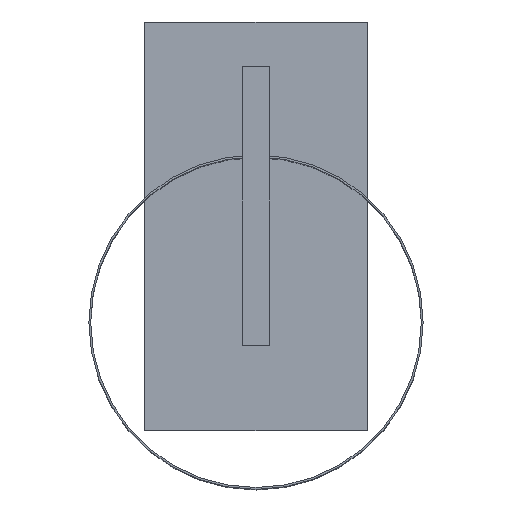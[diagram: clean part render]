
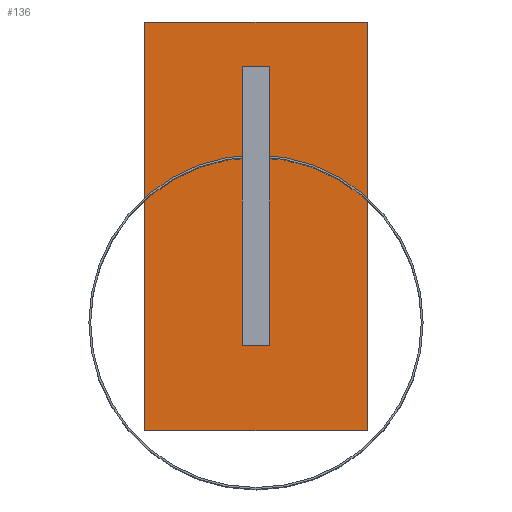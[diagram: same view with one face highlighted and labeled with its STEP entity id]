
A CAD part, top view. The second image highlights one B-rep face of the part: STEP entity #136.
In plain terms, the highlighted planar face has unit normal (0, 0, 1).
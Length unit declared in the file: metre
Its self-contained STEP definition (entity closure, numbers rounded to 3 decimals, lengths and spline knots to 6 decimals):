
#136 = ADVANCED_FACE( '', ( #173, #174 ), #175, .T. );
#173 = FACE_BOUND( '', #216, .T. );
#174 = FACE_OUTER_BOUND( '', #217, .T. );
#175 = PLANE( '', #218 );
#216 = EDGE_LOOP( '', ( #316, #317, #318, #319 ) );
#217 = EDGE_LOOP( '', ( #320, #321, #322, #323 ) );
#218 = AXIS2_PLACEMENT_3D( '', #324, #325, #326 );
#316 = ORIENTED_EDGE( '', *, *, #398, .F. );
#317 = ORIENTED_EDGE( '', *, *, #399, .F. );
#318 = ORIENTED_EDGE( '', *, *, #379, .F. );
#319 = ORIENTED_EDGE( '', *, *, #373, .F. );
#320 = ORIENTED_EDGE( '', *, *, #376, .T. );
#321 = ORIENTED_EDGE( '', *, *, #392, .T. );
#322 = ORIENTED_EDGE( '', *, *, #396, .T. );
#323 = ORIENTED_EDGE( '', *, *, #397, .T. );
#324 = CARTESIAN_POINT( '', ( -0.06, -0.11, 0.006 ) );
#325 = DIRECTION( '', ( 0., 0., 1. ) );
#326 = DIRECTION( '', ( 1., 0., 0. ) );
#373 = EDGE_CURVE( '', #419, #415, #421, .T. );
#376 = EDGE_CURVE( '', #427, #425, #428, .T. );
#379 = EDGE_CURVE( '', #415, #432, #433, .T. );
#392 = EDGE_CURVE( '', #425, #453, #455, .T. );
#396 = EDGE_CURVE( '', #453, #459, #461, .T. );
#397 = EDGE_CURVE( '', #459, #427, #462, .T. );
#398 = EDGE_CURVE( '', #463, #419, #464, .T. );
#399 = EDGE_CURVE( '', #432, #463, #465, .T. );
#415 = VERTEX_POINT( '', #483 );
#419 = VERTEX_POINT( '', #489 );
#421 = LINE( '', #492, #493 );
#425 = VERTEX_POINT( '', #498 );
#427 = VERTEX_POINT( '', #501 );
#428 = LINE( '', #502, #503 );
#432 = VERTEX_POINT( '', #509 );
#433 = LINE( '', #510, #511 );
#453 = VERTEX_POINT( '', #542 );
#455 = LINE( '', #545, #546 );
#459 = VERTEX_POINT( '', #552 );
#461 = LINE( '', #555, #556 );
#462 = LINE( '', #557, #558 );
#463 = VERTEX_POINT( '', #559 );
#464 = LINE( '', #560, #561 );
#465 = LINE( '', #562, #563 );
#483 = CARTESIAN_POINT( '', ( 0.0075, 0.06, 0.006 ) );
#489 = CARTESIAN_POINT( '', ( -0.0075, 0.06, 0.006 ) );
#492 = CARTESIAN_POINT( '', ( -0.06, 0.06, 0.006 ) );
#493 = VECTOR( '', #593, 1. );
#498 = CARTESIAN_POINT( '', ( -0.06, -0.11, 0.006 ) );
#501 = CARTESIAN_POINT( '', ( -0.06, 0.11, 0.006 ) );
#502 = CARTESIAN_POINT( '', ( -0.06, 0.11, 0.006 ) );
#503 = VECTOR( '', #596, 1. );
#509 = CARTESIAN_POINT( '', ( 0.0075, 0.085, 0.006 ) );
#510 = CARTESIAN_POINT( '', ( 0.0075, -0.11, 0.006 ) );
#511 = VECTOR( '', #599, 1. );
#542 = CARTESIAN_POINT( '', ( 0.06, -0.11, 0.006 ) );
#545 = CARTESIAN_POINT( '', ( -0.06, -0.11, 0.006 ) );
#546 = VECTOR( '', #612, 1. );
#552 = CARTESIAN_POINT( '', ( 0.06, 0.11, 0.006 ) );
#555 = CARTESIAN_POINT( '', ( 0.06, -0.11, 0.006 ) );
#556 = VECTOR( '', #616, 1. );
#557 = CARTESIAN_POINT( '', ( 0.06, 0.11, 0.006 ) );
#558 = VECTOR( '', #617, 1. );
#559 = CARTESIAN_POINT( '', ( -0.0075, 0.085, 0.006 ) );
#560 = CARTESIAN_POINT( '', ( -0.0075, -0.11, 0.006 ) );
#561 = VECTOR( '', #618, 1. );
#562 = CARTESIAN_POINT( '', ( -0.06, 0.085, 0.006 ) );
#563 = VECTOR( '', #619, 1. );
#593 = DIRECTION( '', ( 1., 0., 0. ) );
#596 = DIRECTION( '', ( 0., -1., 0. ) );
#599 = DIRECTION( '', ( 0., 1., 0. ) );
#612 = DIRECTION( '', ( 1., 0., 0. ) );
#616 = DIRECTION( '', ( 0., 1., 0. ) );
#617 = DIRECTION( '', ( -1., 0., 0. ) );
#618 = DIRECTION( '', ( 0., -1., 0. ) );
#619 = DIRECTION( '', ( -1., 0., 0. ) );
